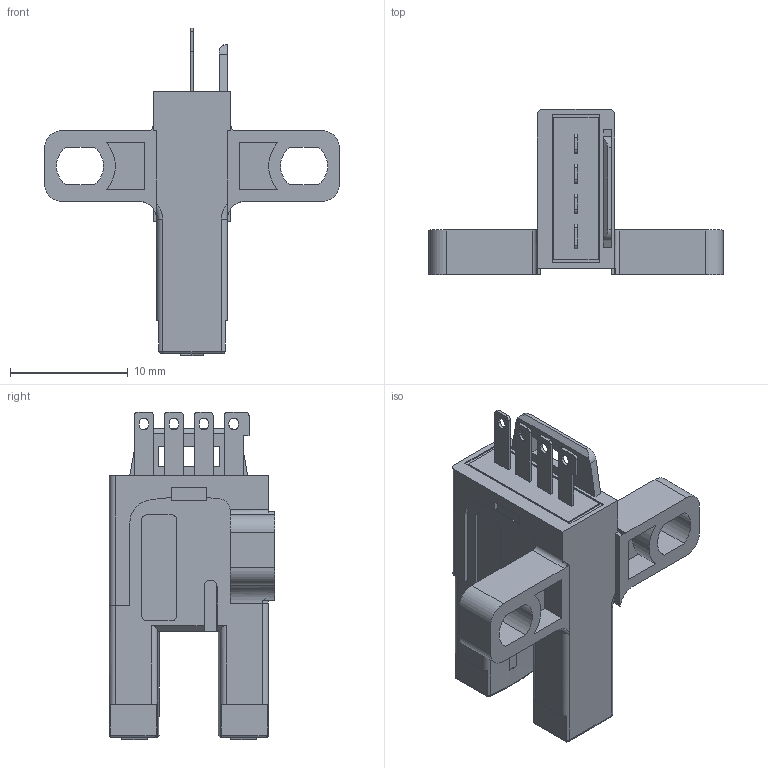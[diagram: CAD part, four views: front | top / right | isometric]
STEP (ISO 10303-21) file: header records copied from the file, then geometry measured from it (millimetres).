
FILE_DESCRIPTION (( 'STEP AP203' ), '1' );
FILE_NAME ('BS5-T2M_BS5-T2M-P.STEP', '2018-07-19T02:32:39', ( 'Registered User' ), ( 'Microsoft Corporation' ), 'SwSTEP 2.0', 'SolidWorks 2015', '' );
FILE_SCHEMA (( 'CONFIG_CONTROL_DESIGN' ));
Length unit declared in the file: millimetre
Products named in the file (1): BS5-T2M_BS5-T2M-P
Bounding box: 25 x 14.05 x 27.8 mm (x, y, z)
Volume: 1844.6 mm3; surface area: 1729.2 mm2
Topology: 1 solids, 1 shells, 573 faces, 1599 edges, 1060 vertices
Faces by surface type: plane 430, cylinder 131, torus 12
Entity records: 18398 total; most frequent: CARTESIAN_POINT 3321, ORIENTED_EDGE 3198, DIRECTION 3009, EDGE_CURVE 1599, VECTOR 1297, LINE 1297, VERTEX_POINT 1060, AXIS2_PLACEMENT_3D 856
